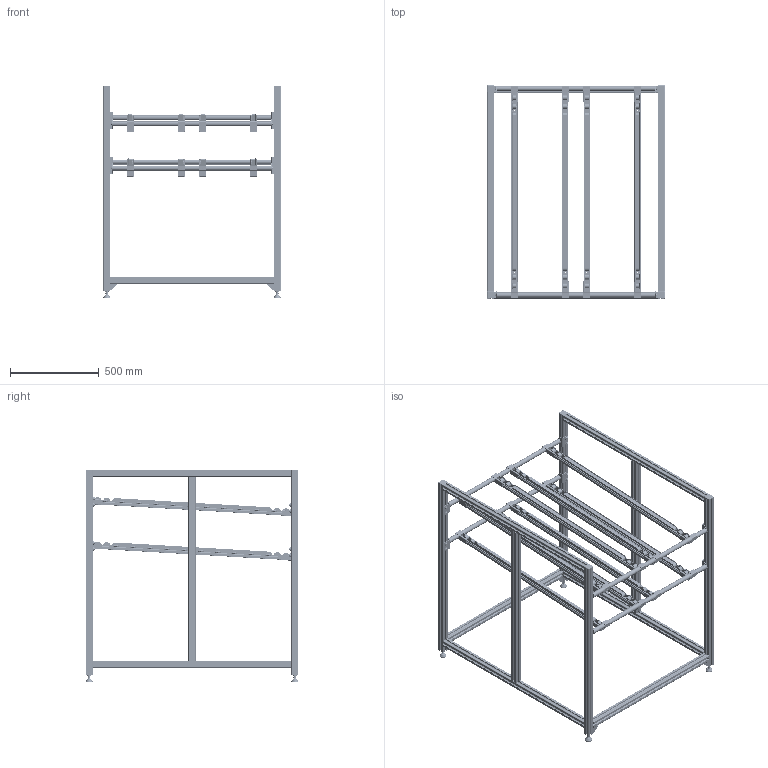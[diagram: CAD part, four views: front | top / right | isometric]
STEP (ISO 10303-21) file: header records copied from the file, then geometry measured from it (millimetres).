
FILE_DESCRIPTION(('STEP AP242'),'1');
FILE_NAME('ALD_GRS_120-100-120_4.stp','2025-12-22T09:49:13',(' '),(' '),'Spatial InterOp 3D',' ',' ');
FILE_SCHEMA(('AP242_MANAGED_MODEL_BASED_3D_ENGINEERING_MIM_LF {1 0 10303 442 1 1 4}'));
Length unit declared in the file: millimetre
Products named in the file (37): Voie; Rail à galets à joue; Support rail à galets; Support rail à galets - avec stoppeur; ALD_GRS_120-100-120_4; Support D28; Vis à tête rectangulaire M8x20; Ecrou de butée M8; Vis centrale S8x25-T40; Equerre support D28; D28; 40x40 - noir; Vis centrale S12x30-T50; Connecteur automatique R10 - Ø12; 40x40L; Equerre 40/40; Pied Ø40 M12x45 articulé réglable (+/- 7,5mm); Ecrou H DIN 439 M12; Tige filetée M12x45 (Ø15); Embase PA Ø40 (Ø15)
Assembly tree (74 placements, depth 3):
  ALD_GRS_120-100-120_4
    Voie  x4
      Rail à galets à joue
      Support rail à galets
      Support rail à galets - avec stoppeur
    Support D28  x8
      Vis à tête rectangulaire M8x20
      Ecrou de butée M8
      Vis centrale S8x25-T40
      Equerre support D28
    D28
    D28
    D28
    D28
    40x40 - noir  x4
    Vis centrale S12x30-T50  x8
    Connecteur automatique R10 - Ø12  x8
      Connecteur automatique R10 - Ø12
      Connecteur automatique R10 - Ø12
      Connecteur automatique R10 - Ø12
    40x40L
    40x40L
    Equerre 40/40  x4
    Pied Ø40 M12x45 articulé réglable (+/- 7,5mm)  x4
      Ecrou H DIN 439 M12
      Tige filetée M12x45 (Ø15)
      Embase PA Ø40 (Ø15)
    40x40L
    40x40L
    40x40L
    40x40L
    40x40L
    40x40L
    40x40L
    40x40L
    40x40L
    40x40L
Bounding box: 1000 x 1200 x 1200 mm (x, y, z)
Volume: 16356616.3 mm3; surface area: 10799589.9 mm2
Topology: 140 solids, 144 shells, 7160 faces, 19976 edges, 13000 vertices
Faces by surface type: plane 3624, cylinder 2724, torus 520, cone 228, sphere 40, bspline 24
Full cylindrical faces by diameter (mm): 2 x352, 4 x144, 4.8 x8, 4.917 x8, 6 x8, 6.5 x8, 6.75 x8, 6.8 x16, 7 x8, 8 x24, 8.3 x8, 9.8 x16, 9.9 x8, 10 x12, 10.1 x16, 10.2 x4, 10.25 x4, 12 x20, 15 x4, 15.5 x4, 16.2 x8, 19 x8, 21.6 x16, 28 x36, 29 x4, 39 x4, 40 x32
Entity records: 108472 total; most frequent: CARTESIAN_POINT 17026, ORIENTED_EDGE 14292, DIRECTION 13699, EDGE_CURVE 7146, LINE 5305, VECTOR 5305, VERTEX_POINT 4800, AXIS2_PLACEMENT_3D 4197
